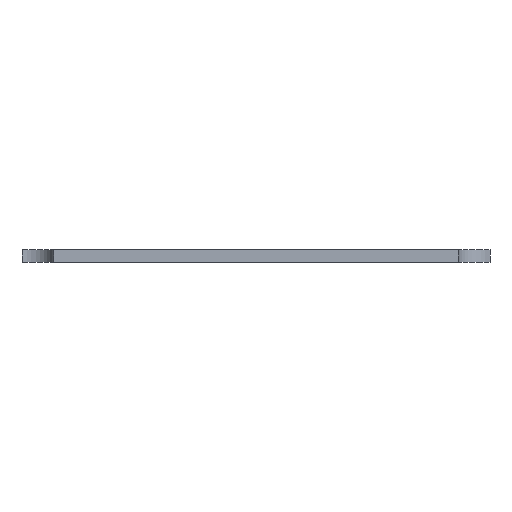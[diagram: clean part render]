
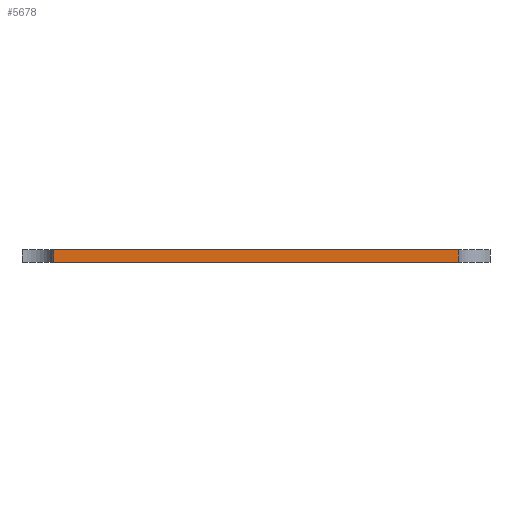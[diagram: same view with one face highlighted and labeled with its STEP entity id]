
A CAD part, front view. The second image highlights one B-rep face of the part: STEP entity #5678.
In plain terms, the highlighted planar face has unit normal (0, -1, 0).
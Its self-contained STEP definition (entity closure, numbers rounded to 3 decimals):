
#44 = PLANE('',#45);
#45 = AXIS2_PLACEMENT_3D('',#46,#47,#48);
#46 = CARTESIAN_POINT('',(8.,8.,3.));
#47 = DIRECTION('',(0.,0.,1.));
#48 = DIRECTION('',(1.,0.,0.));
#71 = CYLINDRICAL_SURFACE('',#72,6.8);
#72 = AXIS2_PLACEMENT_3D('',#73,#74,#75);
#73 = CARTESIAN_POINT('',(9.,9.,-1.));
#74 = DIRECTION('',(-0.,-0.,-1.));
#75 = DIRECTION('',(1.,0.,0.));
#98 = PLANE('',#99);
#99 = AXIS2_PLACEMENT_3D('',#100,#101,#102);
#100 = CARTESIAN_POINT('',(8.,8.,0.));
#101 = DIRECTION('',(0.,0.,1.));
#102 = DIRECTION('',(1.,0.,0.));
#139 = VERTEX_POINT('',#140);
#140 = CARTESIAN_POINT('',(15.726,8.,3.));
#166 = EDGE_CURVE('',#139,#167,#169,.T.);
#167 = VERTEX_POINT('',#168);
#168 = CARTESIAN_POINT('',(114.274,8.,3.));
#169 = SURFACE_CURVE('',#170,(#174,#181),.PCURVE_S1.);
#170 = LINE('',#171,#172);
#171 = CARTESIAN_POINT('',(8.,8.,3.));
#172 = VECTOR('',#173,1.);
#173 = DIRECTION('',(1.,0.,0.));
#174 = PCURVE('',#44,#175);
#175 = DEFINITIONAL_REPRESENTATION('',(#176),#180);
#176 = LINE('',#177,#178);
#177 = CARTESIAN_POINT('',(0.,0.));
#178 = VECTOR('',#179,1.);
#179 = DIRECTION('',(1.,0.));
#180 = ( GEOMETRIC_REPRESENTATION_CONTEXT(2) 
PARAMETRIC_REPRESENTATION_CONTEXT() REPRESENTATION_CONTEXT('2D SPACE',''
  ) );
#181 = PCURVE('',#182,#187);
#182 = PLANE('',#183);
#183 = AXIS2_PLACEMENT_3D('',#184,#185,#186);
#184 = CARTESIAN_POINT('',(8.,8.,0.));
#185 = DIRECTION('',(0.,1.,0.));
#186 = DIRECTION('',(0.,0.,1.));
#187 = DEFINITIONAL_REPRESENTATION('',(#188),#192);
#188 = LINE('',#189,#190);
#189 = CARTESIAN_POINT('',(3.,0.));
#190 = VECTOR('',#191,1.);
#191 = DIRECTION('',(0.,1.));
#192 = ( GEOMETRIC_REPRESENTATION_CONTEXT(2) 
PARAMETRIC_REPRESENTATION_CONTEXT() REPRESENTATION_CONTEXT('2D SPACE',''
  ) );
#215 = CYLINDRICAL_SURFACE('',#216,6.8);
#216 = AXIS2_PLACEMENT_3D('',#217,#218,#219);
#217 = CARTESIAN_POINT('',(121.,9.,-1.));
#218 = DIRECTION('',(-0.,-0.,-1.));
#219 = DIRECTION('',(1.,0.,0.));
#3203 = VERTEX_POINT('',#3204);
#3204 = CARTESIAN_POINT('',(15.726,8.,0.));
#3226 = EDGE_CURVE('',#3203,#3227,#3229,.T.);
#3227 = VERTEX_POINT('',#3228);
#3228 = CARTESIAN_POINT('',(114.274,8.,0.));
#3229 = SURFACE_CURVE('',#3230,(#3234,#3241),.PCURVE_S1.);
#3230 = LINE('',#3231,#3232);
#3231 = CARTESIAN_POINT('',(8.,8.,0.));
#3232 = VECTOR('',#3233,1.);
#3233 = DIRECTION('',(1.,0.,0.));
#3234 = PCURVE('',#98,#3235);
#3235 = DEFINITIONAL_REPRESENTATION('',(#3236),#3240);
#3236 = LINE('',#3237,#3238);
#3237 = CARTESIAN_POINT('',(0.,0.));
#3238 = VECTOR('',#3239,1.);
#3239 = DIRECTION('',(1.,0.));
#3240 = ( GEOMETRIC_REPRESENTATION_CONTEXT(2) 
PARAMETRIC_REPRESENTATION_CONTEXT() REPRESENTATION_CONTEXT('2D SPACE',''
  ) );
#3241 = PCURVE('',#182,#3242);
#3242 = DEFINITIONAL_REPRESENTATION('',(#3243),#3247);
#3243 = LINE('',#3244,#3245);
#3244 = CARTESIAN_POINT('',(0.,0.));
#3245 = VECTOR('',#3246,1.);
#3246 = DIRECTION('',(0.,1.));
#3247 = ( GEOMETRIC_REPRESENTATION_CONTEXT(2) 
PARAMETRIC_REPRESENTATION_CONTEXT() REPRESENTATION_CONTEXT('2D SPACE',''
  ) );
#5658 = EDGE_CURVE('',#139,#3203,#5659,.T.);
#5659 = SURFACE_CURVE('',#5660,(#5664,#5670),.PCURVE_S1.);
#5660 = LINE('',#5661,#5662);
#5661 = CARTESIAN_POINT('',(15.726,8.,-1.));
#5662 = VECTOR('',#5663,1.);
#5663 = DIRECTION('',(-0.,-0.,-1.));
#5664 = PCURVE('',#71,#5665);
#5665 = DEFINITIONAL_REPRESENTATION('',(#5666),#5669);
#5666 = B_SPLINE_CURVE_WITH_KNOTS('',1,(#5667,#5668),.UNSPECIFIED.,.F.,
  .F.,(2,2),(-4.,-1.),.PIECEWISE_BEZIER_KNOTS.);
#5667 = CARTESIAN_POINT('',(-6.136,-4.));
#5668 = CARTESIAN_POINT('',(-6.136,-1.));
#5669 = ( GEOMETRIC_REPRESENTATION_CONTEXT(2) 
PARAMETRIC_REPRESENTATION_CONTEXT() REPRESENTATION_CONTEXT('2D SPACE',''
  ) );
#5670 = PCURVE('',#182,#5671);
#5671 = DEFINITIONAL_REPRESENTATION('',(#5672),#5675);
#5672 = B_SPLINE_CURVE_WITH_KNOTS('',1,(#5673,#5674),.UNSPECIFIED.,.F.,
  .F.,(2,2),(-4.3,-0.7),.PIECEWISE_BEZIER_KNOTS.);
#5673 = CARTESIAN_POINT('',(3.3,7.726));
#5674 = CARTESIAN_POINT('',(-0.3,7.726));
#5675 = ( GEOMETRIC_REPRESENTATION_CONTEXT(2) 
PARAMETRIC_REPRESENTATION_CONTEXT() REPRESENTATION_CONTEXT('2D SPACE',''
  ) );
#5678 = ADVANCED_FACE('',(#5679),#182,.F.);
#5679 = FACE_BOUND('',#5680,.F.);
#5680 = EDGE_LOOP('',(#5681,#5682,#5683,#5684));
#5681 = ORIENTED_EDGE('',*,*,#3226,.F.);
#5682 = ORIENTED_EDGE('',*,*,#5658,.F.);
#5683 = ORIENTED_EDGE('',*,*,#166,.T.);
#5684 = ORIENTED_EDGE('',*,*,#5685,.T.);
#5685 = EDGE_CURVE('',#167,#3227,#5686,.T.);
#5686 = SURFACE_CURVE('',#5687,(#5691,#5697),.PCURVE_S1.);
#5687 = LINE('',#5688,#5689);
#5688 = CARTESIAN_POINT('',(114.274,8.,-1.));
#5689 = VECTOR('',#5690,1.);
#5690 = DIRECTION('',(-0.,-0.,-1.));
#5691 = PCURVE('',#182,#5692);
#5692 = DEFINITIONAL_REPRESENTATION('',(#5693),#5696);
#5693 = B_SPLINE_CURVE_WITH_KNOTS('',1,(#5694,#5695),.UNSPECIFIED.,.F.,
  .F.,(2,2),(-4.3,-0.7),.PIECEWISE_BEZIER_KNOTS.);
#5694 = CARTESIAN_POINT('',(3.3,106.274));
#5695 = CARTESIAN_POINT('',(-0.3,106.274));
#5696 = ( GEOMETRIC_REPRESENTATION_CONTEXT(2) 
PARAMETRIC_REPRESENTATION_CONTEXT() REPRESENTATION_CONTEXT('2D SPACE',''
  ) );
#5697 = PCURVE('',#215,#5698);
#5698 = DEFINITIONAL_REPRESENTATION('',(#5699),#5702);
#5699 = B_SPLINE_CURVE_WITH_KNOTS('',1,(#5700,#5701),.UNSPECIFIED.,.F.,
  .F.,(2,2),(-4.3,-0.7),.PIECEWISE_BEZIER_KNOTS.);
#5700 = CARTESIAN_POINT('',(-3.289,-4.3));
#5701 = CARTESIAN_POINT('',(-3.289,-0.7));
#5702 = ( GEOMETRIC_REPRESENTATION_CONTEXT(2) 
PARAMETRIC_REPRESENTATION_CONTEXT() REPRESENTATION_CONTEXT('2D SPACE',''
  ) );
